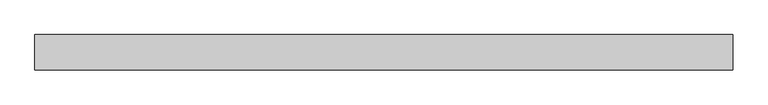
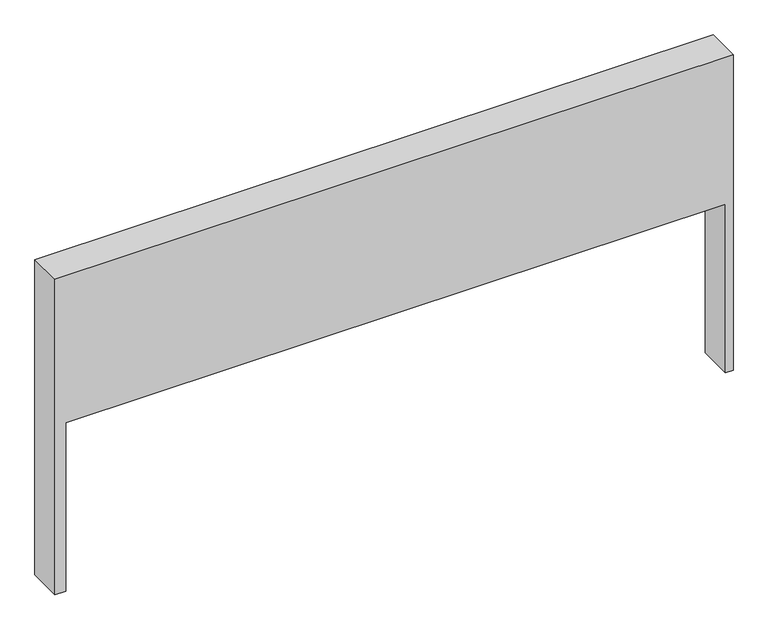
"""IFC4 building model written with IfcOpenShell, lengths in millimetres: plate geometry, Системная панель : Алюкобонд серый."""

from ifc_helpers import new_model, si_unit, frame, origin, place, context, project, spatial, polyline, outline, extrude, source, transform, mapped, element, save


def plate_1865c930(model_context):
    return source(origin(), model_context, "Body", "SweptSolid", [
        extrude(outline(polyline([(0.0, -590.0), (0.0, -571.2177422), (310.0, -571.2177422), (310.0, 576.3209135), (0.0, 576.3209135), (0.0, 590.0), (580.0, 590.0), (580.0, -590.0), (0.0, -590.0)])), frame((0.0, -10.5, 0.0), z_axis=(0.0, 1.0, 0.0), x_axis=(0.0, 0.0, 1.0)), (0.0, 0.0, 1.0), 60.0),
    ])


if __name__ == "__main__":
    model = new_model("IFC4")
    model_context = context("Model", 3, world=origin())
    ifc_project = project(units=[si_unit("LENGTHUNIT", "METRE", prefix="MILLI")], contexts=[model_context])
    site = spatial("IfcSite", under=ifc_project)
    building = spatial("IfcBuilding", under=site)
    placement = place(None, origin())
    plate_shape = plate_1865c930(model_context)
    element("IfcPlate", 1, ObjectType="Системная панель : Алюкобонд серый", at=placement, inside=building, context=model_context, shape_type="MappedRepresentation", body=[
        mapped(plate_shape, transform((0.0, 0.0, 0.0), x_axis=(1.0, 0.0, 0.0), y_axis=(0.0, 1.0, 0.0), z_axis=(0.0, 0.0, 1.0))),
    ])
    save(model, "model.ifc")
